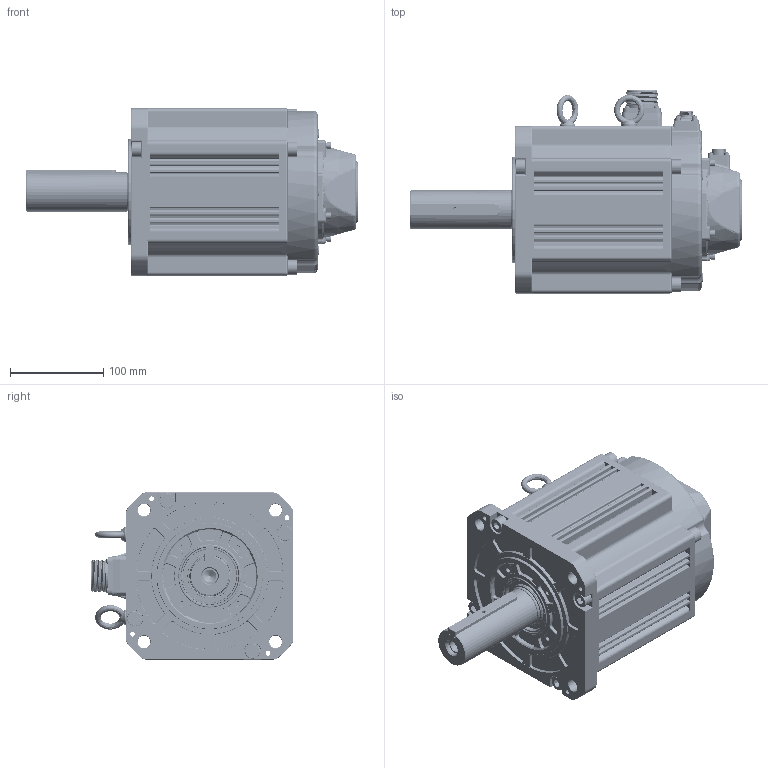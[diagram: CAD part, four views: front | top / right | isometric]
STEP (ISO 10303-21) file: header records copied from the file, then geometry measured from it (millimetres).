
FILE_DESCRIPTION (( 'STEP AP203' ), '1' );
FILE_NAME ('俋倛芞ACM2M-1855(T)B.STEP', '2024-07-25T12:30:06', ( 'Windows 蚚誧' ), ( 'Organization' ), 'SwSTEP 2.0', 'SolidWorks 2021', '' );
FILE_SCHEMA (( 'CONFIG_CONTROL_DESIGN' ));
Length unit declared in the file: millimetre
Products named in the file (20): 编码插座螺钉；M3×10_M3×10; 180ヶ傷裔_傖こ2.9; 动力插座螺钉M3×25_M3×10; 180蚐猾; 晤鎢裔蹟隊 M4℅14; M8裂遠蹟; 180价陬瑤脣假蚾釱; 蹟隊-价陬假蚾; 雄薯脣釱; 价陬脣釱; 180蛌粣XX-袪粣 粣扥耳42_5.5kw-DMC淕极宒袪粣; 价陬假蚾釱蹟隊; 晤鎢脣芛蟀諉ん; 180刹车后端盖_55nm成品-十字连轴+直连; 180瑤脣假蚾釱; 130晤鎢ん裔2M; 180儂褲_5.5; C型平键12×8×97; ﾂﾝｶ､｣ｻM10｡ﾁ30_M10｡ﾁ30; 俋倛芞ACM2M-1855(T)B
Assembly tree (45 placements, depth 2):
  俋倛芞ACM2M-1855(T)B
    180ヶ傷裔_傖こ2.9
    180儂褲_5.5
    180刹车后端盖_55nm成品-十字连轴+直连
    130晤鎢ん裔2M
    180瑤脣假蚾釱
    雄薯脣釱
    晤鎢脣芛蟀諉ん
    M8裂遠蹟  x2
    ﾂﾝｶ､｣ｻM10｡ﾁ30_M10｡ﾁ30  x8
    编码插座螺钉；M3×10_M3×10  x8
    180蚐猾
    晤鎢裔蹟隊 M4℅14  x4
    动力插座螺钉M3×25_M3×10  x4
    180蛌粣XX-袪粣 粣扥耳42_5.5kw-DMC淕极宒袪粣
    C型平键12×8×97
    180价陬瑤脣假蚾釱
    价陬脣釱
    价陬假蚾釱蹟隊  x4
    蹟隊-价陬假蚾  x3
Bounding box: 356.9 x 218.2 x 180 mm (x, y, z)
Volume: 6347180.5 mm3; surface area: 522519.4 mm2
Topology: 66 solids, 72 shells, 3887 faces, 9761 edges, 6210 vertices
Faces by surface type: plane 1592, cylinder 1120, bspline 522, torus 463, cone 154, sphere 36
Full cylindrical faces by diameter (mm): 0.75 x10, 0.76 x2, 1.007 x10, 1.4 x4, 1.5 x9, 1.795 x2, 1.8 x3, 1.98 x1, 2.2 x1, 2.31 x1, 2.36 x2, 2.5 x16, 2.598 x16, 3 x16, 3.2 x16, 3.3 x4, 3.4 x4, 3.5 x8, 3.6 x4, 3.7 x4, 4 x4, 4.2 x1, 4.5 x12, 5 x10, 5.5 x4, 5.6 x16, 5.7 x3, 5.8 x4, 6 x2, 6.8 x2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
Entity records: 142412 total; most frequent: CARTESIAN_POINT 68195, ORIENTED_EDGE 15204, DIRECTION 13639, EDGE_CURVE 7602, AXIS2_PLACEMENT_3D 5237, VERTEX_POINT 5062, EDGE_LOOP 3900, FACE_OUTER_BOUND 3491
